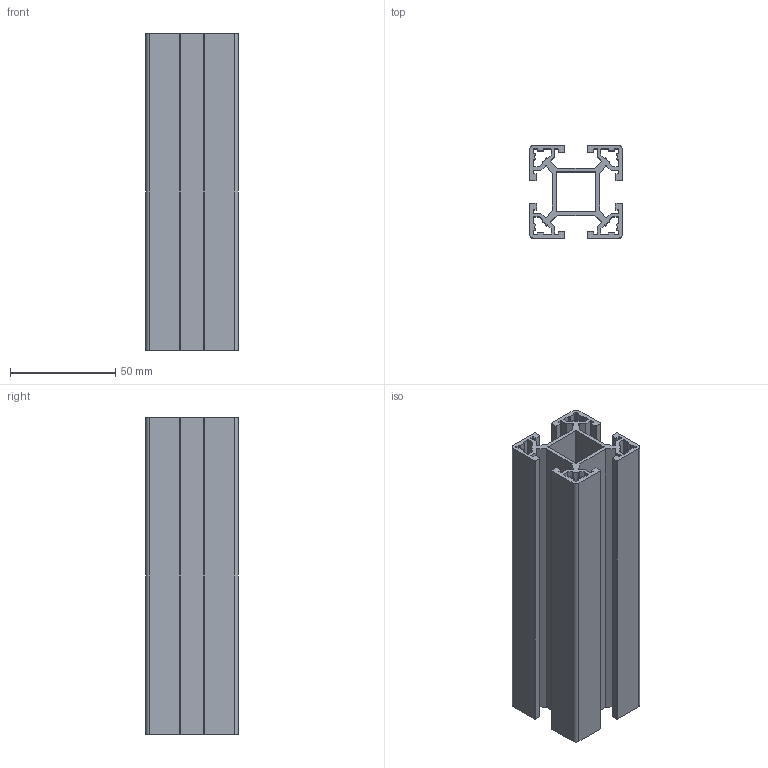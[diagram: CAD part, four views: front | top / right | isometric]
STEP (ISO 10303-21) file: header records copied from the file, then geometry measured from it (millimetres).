
FILE_DESCRIPTION (( 'STEP AP214' ), '1' );
FILE_NAME ('TC44.step', '2017-04-05T08:05:54', ( '' ), ( '' ), 'SwSTEP 2.0', 'SolidWorks 2015', '' );
FILE_SCHEMA (( 'AUTOMOTIVE_DESIGN' ));
Length unit declared in the file: millimetre
Products named in the file (1): TC44
Bounding box: 44 x 44 x 150 mm (x, y, z)
Volume: 85072.6 mm3; surface area: 88253.6 mm2
Topology: 1 solids, 1 shells, 270 faces, 804 edges, 536 vertices
Faces by surface type: cylinder 140, plane 130
Entity records: 9202 total; most frequent: DIRECTION 1626, CARTESIAN_POINT 1611, ORIENTED_EDGE 1608, EDGE_CURVE 804, AXIS2_PLACEMENT_3D 551, VERTEX_POINT 536, LINE 524, VECTOR 524
